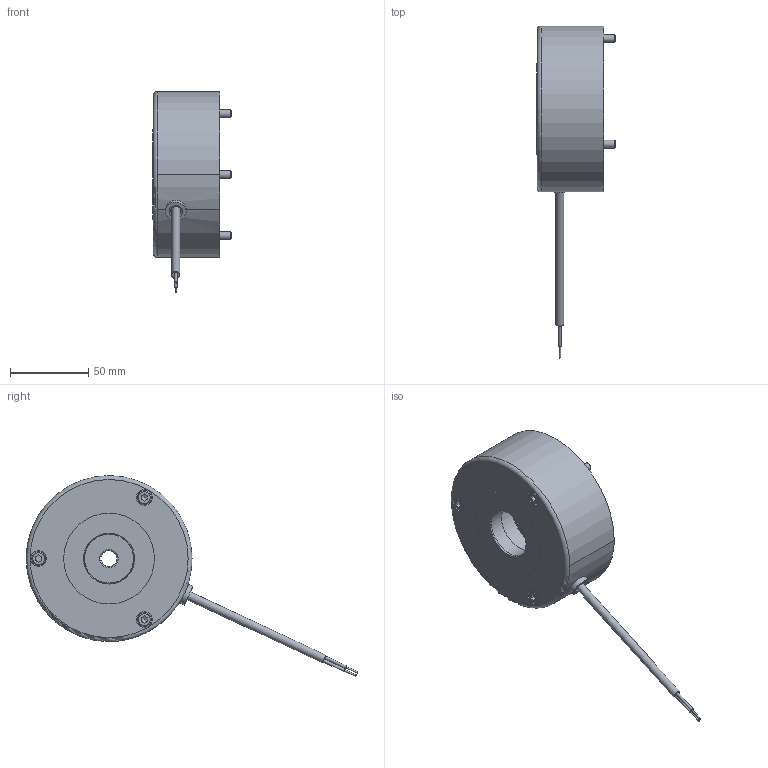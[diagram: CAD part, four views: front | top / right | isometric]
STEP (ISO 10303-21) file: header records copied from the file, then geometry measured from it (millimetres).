
FILE_DESCRIPTION(/* description */ (''),/* implementation_level */ '2;1');
FILE_NAME(/* name */ 'C:\SapWorkDir\Inventor\IP1\ConvertTempPath\5028610_IPT_000.ipt.stp',/* time_stamp */ '2020-09-10T14:03:05+02:00',/* author */ ('STRATE'),/* organization */ (''),/* preprocessor_version */ 'ST-DEVELOPER v17',/* originating_system */ 'Autodesk Inventor 2018',/* authorisation */ '');
FILE_SCHEMA (('AUTOMOTIVE_DESIGN { 1 0 10303 214 3 1 1 }'));
Length unit declared in the file: millimetre
Products named in the file (1): 5028610
Bounding box: 50.3 x 211.92 x 128.24 mm (x, y, z)
Volume: 265982 mm3; surface area: 91218.4 mm2
Topology: 4 solids, 4 shells, 490 faces, 1357 edges, 928 vertices
Faces by surface type: cylinder 317, plane 93, cone 53, torus 22, bspline 5
Full cylindrical faces by diameter (mm): 1 x2, 1.85 x2, 2.2 x14, 5 x3, 5.2 x3, 5.3 x1, 5.4 x14, 5.5 x6, 5.9 x3, 6 x2, 6.2 x14, 6.3 x2, 6.6 x1, 6.7 x1, 7.2 x2, 7.5 x2, 8.5 x5, 8.9 x3, 9.2 x1, 10 x3, 13.2 x1, 32 x1, 41.5 x1, 42 x1, 55.5 x2, 56.1 x2, 57 x1, 58 x1, 76.5 x1, 96.8 x1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
Entity records: 17693 total; most frequent: CARTESIAN_POINT 4353, DIRECTION 2706, ORIENTED_EDGE 2684, EDGE_CURVE 1342, AXIS2_PLACEMENT_3D 1138, VERTEX_POINT 928, CIRCLE 652, EDGE_LOOP 588
